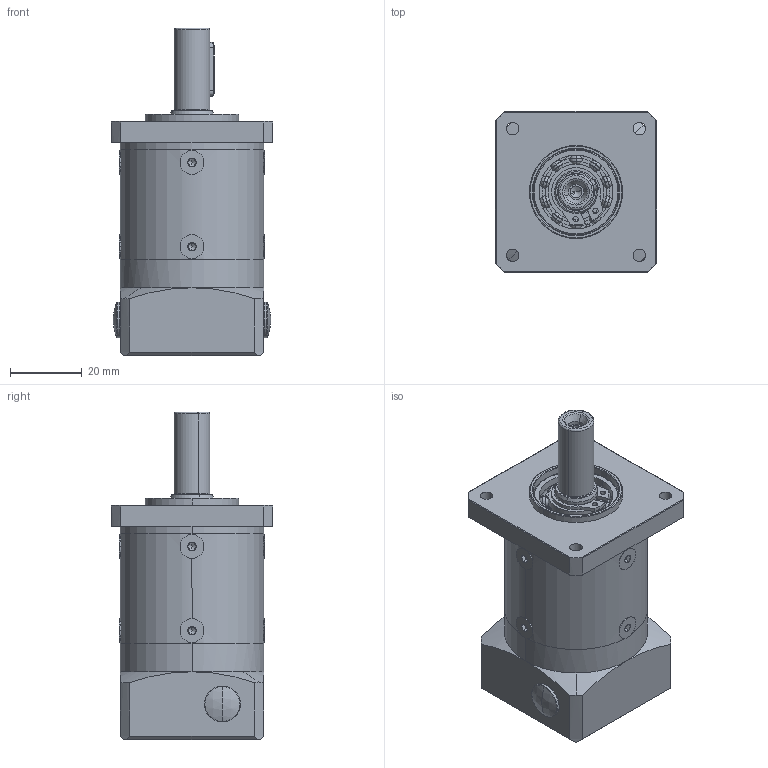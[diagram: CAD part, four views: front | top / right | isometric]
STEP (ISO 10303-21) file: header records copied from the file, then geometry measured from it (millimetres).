
FILE_DESCRIPTION (( 'STEP AP203' ), '1' );
FILE_NAME ('PF40L1-i-P2-S2-8-25-30-45-M3.step', '2020-03-23T09:08:39', ( '个人用户' ), ( '微软中国' ), 'SwSTEP 2.0', 'SolidWorks 2018', '' );
FILE_SCHEMA (( 'CONFIG_CONTROL_DESIGN' ));
Length unit declared in the file: millimetre
Products named in the file (1): PF40L1-i-P2-S2-8-25-30-45-M3
Bounding box: 45 x 45 x 91.5 mm (x, y, z)
Volume: 68390.3 mm3; surface area: 46893.3 mm2
Topology: 28 solids, 28 shells, 1251 faces, 3371 edges, 2128 vertices
Faces by surface type: cylinder 351, plane 261, sphere 250, cone 199, torus 186, bspline 4
Entity records: 48034 total; most frequent: CARTESIAN_POINT 17036, ORIENTED_EDGE 6678, DIRECTION 6440, EDGE_CURVE 3339, AXIS2_PLACEMENT_3D 2876, VERTEX_POINT 2128, CIRCLE 1628, EDGE_LOOP 1443
